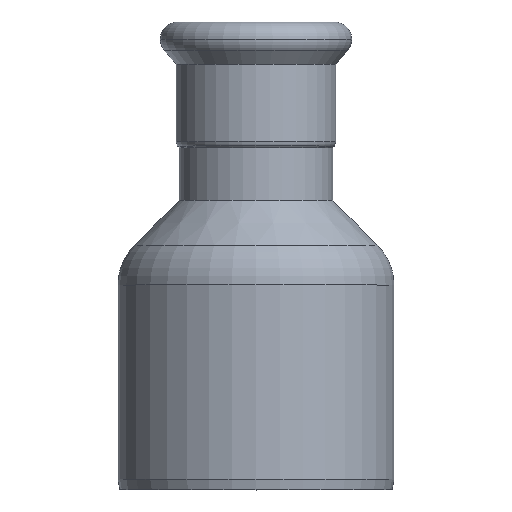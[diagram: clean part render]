
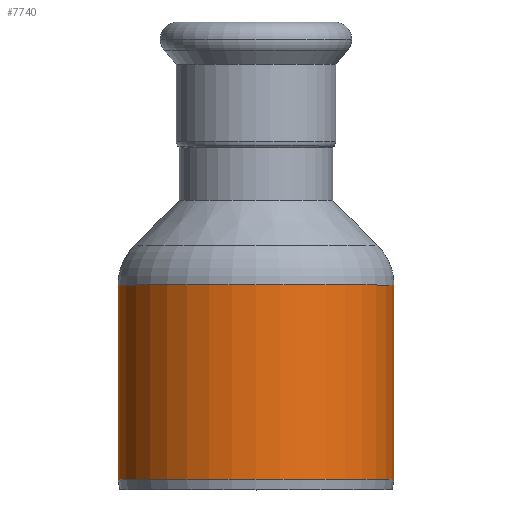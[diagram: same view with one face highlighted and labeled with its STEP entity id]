
A CAD part, top view. The second image highlights one B-rep face of the part: STEP entity #7740.
In plain terms, the highlighted cylindrical face has radius 27 mm (diameter 54 mm), a partial arc.
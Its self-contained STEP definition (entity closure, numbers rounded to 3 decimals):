
#1880=CARTESIAN_POINT('',(-202.976,33.421,0.));
#1890=DIRECTION('',(0.,-1.,0.));
#1900=DIRECTION('',(1.,0.,0.));
#1910=AXIS2_PLACEMENT_3D('',#1880,#1890,#1900);
#1920=CYLINDRICAL_SURFACE('',#1910,27.);
#1930=CARTESIAN_POINT('',(-175.976,33.421,0.));
#1940=DIRECTION('',(0.,-1.,0.));
#1950=VECTOR('',#1940,1.);
#1960=LINE('',#1930,#1950);
#1970=CARTESIAN_POINT('',(-175.976,15.164,0.));
#1980=VERTEX_POINT('',#1970);
#1990=CARTESIAN_POINT('',(-175.976,-22.879,0.));
#2000=VERTEX_POINT('',#1990);
#2010=EDGE_CURVE('',#1980,#2000,#1960,.T.);
#2030=CARTESIAN_POINT('',(-202.976,15.164,0.));
#2040=DIRECTION('',(0.,-1.,0.));
#2050=DIRECTION('',(-1.,0.,0.));
#2060=AXIS2_PLACEMENT_3D('',#2030,#2040,#2050);
#2070=CIRCLE('',#2060,27.);
#2080=CARTESIAN_POINT('',(-229.976,15.164,0.));
#2090=VERTEX_POINT('',#2080);
#2120=CARTESIAN_POINT('',(-229.976,33.421,
0.));
#2130=DIRECTION('',(0.,-1.,0.));
#2140=VECTOR('',#2130,1.);
#2150=LINE('',#2120,#2140);
#2160=CARTESIAN_POINT('',(-229.976,-22.879,
0.));
#2170=VERTEX_POINT('',#2160);
#2180=EDGE_CURVE('',#2090,#2170,#2150,.T.);
#2200=CARTESIAN_POINT('',(-202.976,-22.879,0.));
#2210=DIRECTION('',(0.,-1.,0.));
#2220=DIRECTION('',(-1.,0.,0.));
#2230=AXIS2_PLACEMENT_3D('',#2200,#2210,#2220);
#2240=CIRCLE('',#2230,27.);
#3200=EDGE_CURVE('',#1980,#2090,#2070,.T.);
#7370=EDGE_CURVE('',#2000,#2170,#2240,.T.);
#7680=ORIENTED_EDGE('',*,*,#2010,.F.);
#7690=ORIENTED_EDGE('',*,*,#7370,.F.);
#7700=ORIENTED_EDGE('',*,*,#2180,.T.);
#7710=ORIENTED_EDGE('',*,*,#3200,.T.);
#7720=EDGE_LOOP('',(#7710,#7700,#7690,#7680));
#7730=FACE_OUTER_BOUND('',#7720,.T.);
#7740=ADVANCED_FACE('',(#7730),#1920,.T.);
